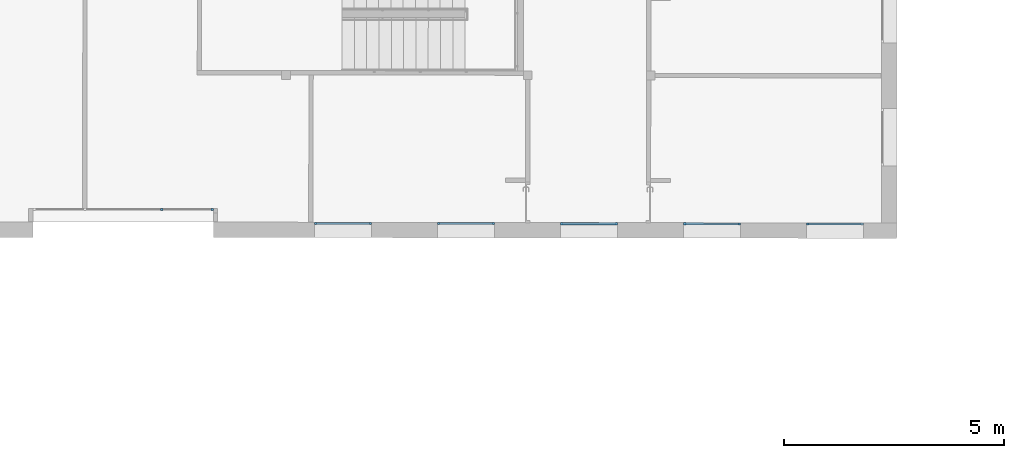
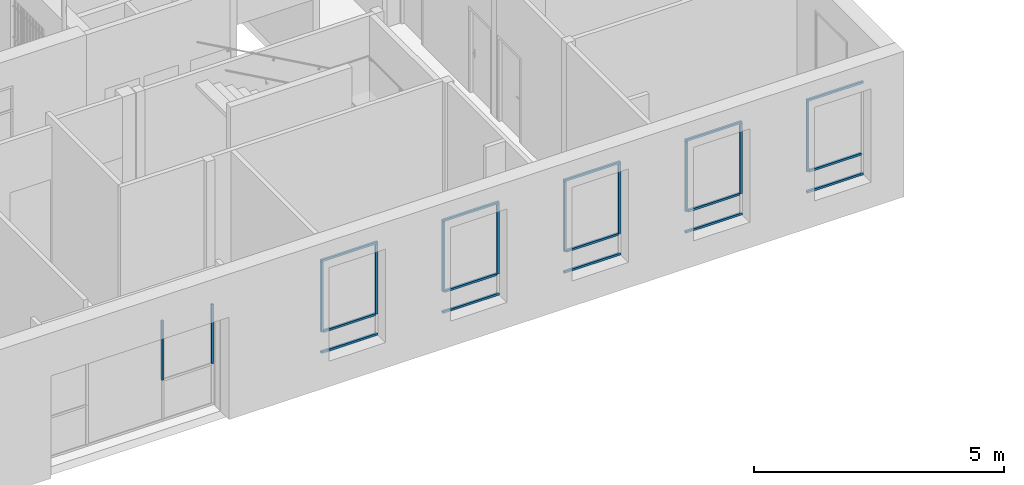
# One storey, part 13 of 101: 26 members, 6 elements without a shape of their own.
"""IFC2X3 building model written with IfcOpenShell, lengths in metres."""

from ifc_helpers import new_model, entity, si_unit, converted_unit, derived_unit, direction, frame, frame_2d, origin, origin_2d_with_axis, place, context, subcontext, project, spatial, rectangle, extrude, source, transform, mapped, material, type_object, type_shapes, element, aggregate, save


model = new_model("IFC2X3")

# Units and contexts
model_context = context("Model", 3, precision=1e-05, world=origin(), true_north=direction((6.123233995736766e-17, 1.0)))
body_context = subcontext(model_context, "Body", "Model", "MODEL_VIEW")
ifc_project = project(units=[si_unit("LENGTHUNIT", "METRE"), si_unit("AREAUNIT", "SQUARE_METRE"), converted_unit("PLANEANGLEUNIT", "DEGREE", entity("IfcPlaneAngleMeasure", 0.017453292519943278), si_unit("PLANEANGLEUNIT", "RADIAN"), dimensions=[0, 0, 0, 0, 0, 0, 0]), derived_unit("THERMALTRANSMITTANCEUNIT", [(si_unit("MASSUNIT", "GRAM", prefix="KILO"), 1), (si_unit("THERMODYNAMICTEMPERATUREUNIT", "KELVIN"), -1), (si_unit("TIMEUNIT", "SECOND"), -3)])], contexts=[model_context])

# Site, building, storey
site_placement = place(None, frame((1253.6752467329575, 2072.143113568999, 91.49999999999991), z_axis=(0.0, 0.0, 1.0), x_axis=(0.7237211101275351, 0.6900925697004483, 0.0)))
site = spatial("IfcSite", under=ifc_project, at=site_placement, Name="Surface", CompositionType="ELEMENT")
building_placement = place(site_placement, origin())
building = spatial("IfcBuilding", under=site, at=building_placement, CompositionType="ELEMENT")
storey_placement = place(building_placement, origin())
storey = spatial("IfcBuildingStorey", under=building, at=storey_placement, Name="0- Rdc", CompositionType="ELEMENT", Elevation=-5.764692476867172e-13)

# Curtain wall, member
curtain_wall_type = type_object("IfcCurtainWallType", Name="Mur-rideau:Menuiserie Ext 1F+1OB VERTIC", PredefinedType="NOTDEFINED")
curtain_wall_1_placement = place(storey_placement, origin())
curtain_wall_1 = element("IfcCurtainWall", 1, at=curtain_wall_1_placement, inside=storey, type_object=curtain_wall_type, Name="Mur-rideau:Menuiserie Ext 1F+1OB VERTIC", ObjectType="Mur-rideau:Menuiserie Ext 1F+1OB VERTIC")
ifc_material = material(Name="OMD_Aluminium Men Ext")
member_type_1 = type_object("IfcMemberType", Name="Meneau rectangulaire:50x50", PredefinedType="MULLION", material=ifc_material)
shared_shape_1 = source(origin(), body_context, "Body", "SweptSolid", [
    extrude(rectangle(XDim=0.05, YDim=0.049999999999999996, at=origin_2d_with_axis()), frame((-0.025, 0.0, -1.2996959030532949), z_axis=(0.0, 0.0, 1.0), x_axis=(-1.0, 0.0, 0.0)), (0.0, 0.0, 1.0), 1.2996959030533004),
])
type_shapes(member_type_1, [shared_shape_1])
member_1_placement = place(curtain_wall_1_placement, frame((178.03940840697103, -28.072796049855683, 2.8999999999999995), z_axis=(-0.7228702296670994, 0.6909838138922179, 0.0), x_axis=(0.0, 0.0, 1.0)))
member_1 = element("IfcMember", 2, at=member_1_placement, type_object=member_type_1, material=ifc_material, Name="Meneau rectangulaire:50x50", ObjectType="Meneau rectangulaire:50x50", context=body_context, shape_type="MappedRepresentation", body=[
    mapped(shared_shape_1, transform((0.0, 0.0, 0.0), scale=1.0)),
])

curtain_wall_2_placement = place(storey_placement, origin())
curtain_wall_2 = element("IfcCurtainWall", 3, at=curtain_wall_2_placement, inside=storey, type_object=curtain_wall_type, Name="Mur-rideau:Menuiserie Ext 1F+1OB VERTIC", ObjectType="Mur-rideau:Menuiserie Ext 1F+1OB VERTIC")
member_2_placement = place(curtain_wall_2_placement, frame((176.0215320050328, -26.14392987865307, 2.8999999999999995), z_axis=(-0.7228702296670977, 0.6909838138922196, 0.0), x_axis=(0.0, 0.0, 1.0)))
member_2 = element("IfcMember", 4, at=member_2_placement, type_object=member_type_1, material=ifc_material, Name="Meneau rectangulaire:50x50", ObjectType="Meneau rectangulaire:50x50", context=body_context, shape_type="MappedRepresentation", body=[
    mapped(shared_shape_1, transform((0.0, 0.0, 0.0), scale=1.0)),
])

curtain_wall_3_placement = place(storey_placement, origin())
curtain_wall_3 = element("IfcCurtainWall", 5, at=curtain_wall_3_placement, inside=storey, type_object=curtain_wall_type, Name="Mur-rideau:Menuiserie Ext 1F+1OB VERTIC", ObjectType="Mur-rideau:Menuiserie Ext 1F+1OB VERTIC")
member_3_placement = place(curtain_wall_3_placement, frame((173.99749536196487, -24.209175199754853, 2.8999999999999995), z_axis=(-0.7228702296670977, 0.6909838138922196, 0.0), x_axis=(0.0, 0.0, 1.0)))
member_3 = element("IfcMember", 6, at=member_3_placement, type_object=member_type_1, material=ifc_material, Name="Meneau rectangulaire:50x50", ObjectType="Meneau rectangulaire:50x50", context=body_context, shape_type="MappedRepresentation", body=[
    mapped(shared_shape_1, transform((0.0, 0.0, 0.0), scale=1.0)),
])

curtain_wall_4_placement = place(storey_placement, origin())
curtain_wall_4 = element("IfcCurtainWall", 7, at=curtain_wall_4_placement, inside=storey, type_object=curtain_wall_type, Name="Mur-rideau:Menuiserie Ext 1F+1OB VERTIC", ObjectType="Mur-rideau:Menuiserie Ext 1F+1OB VERTIC")
member_4_placement = place(curtain_wall_4_placement, frame((171.97345871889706, -22.274420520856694, 2.8999999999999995), z_axis=(-0.7228702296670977, 0.6909838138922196, 0.0), x_axis=(0.0, 0.0, 1.0)))
member_4 = element("IfcMember", 8, at=member_4_placement, type_object=member_type_1, material=ifc_material, Name="Meneau rectangulaire:50x50", ObjectType="Meneau rectangulaire:50x50", context=body_context, shape_type="MappedRepresentation", body=[
    mapped(shared_shape_1, transform((0.0, 0.0, 0.0), scale=1.0)),
])

curtain_wall_5_placement = place(storey_placement, origin())
curtain_wall_5 = element("IfcCurtainWall", 9, at=curtain_wall_5_placement, inside=storey, type_object=curtain_wall_type, Name="Mur-rideau:Menuiserie Ext 1F+1OB VERTIC", ObjectType="Mur-rideau:Menuiserie Ext 1F+1OB VERTIC")
member_5_placement = place(curtain_wall_5_placement, frame((169.94942207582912, -20.339665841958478, 2.8999999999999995), z_axis=(-0.7228702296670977, 0.6909838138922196, 0.0), x_axis=(0.0, 0.0, 1.0)))
member_5 = element("IfcMember", 10, at=member_5_placement, type_object=member_type_1, material=ifc_material, Name="Meneau rectangulaire:50x50", ObjectType="Meneau rectangulaire:50x50", context=body_context, shape_type="MappedRepresentation", body=[
    mapped(shared_shape_1, transform((0.0, 0.0, 0.0), scale=1.0)),
])

# Member
member_type_2 = type_object("IfcMemberType", Name="Meneau rectangulaire:50x50", PredefinedType="MULLION", material=ifc_material)
shared_shape_2 = source(origin(), body_context, "Body", "SweptSolid", [
    extrude(rectangle(XDim=0.05, YDim=0.05, at=origin_2d_with_axis()), frame((-0.025, 0.0, -1.2996959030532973), z_axis=(0.0, 0.0, 1.0), x_axis=(-1.0, 0.0, 0.0)), (0.0, 0.0, 1.0), 1.2996959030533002),
])
type_shapes(member_type_2, [shared_shape_2])
member_6_placement = place(curtain_wall_1_placement, frame((178.97891988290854, -28.970864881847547, 0.62), z_axis=(0.7228702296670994, -0.6909838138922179, 0.0), x_axis=(0.0, 0.0, -1.0)))
member_6 = element("IfcMember", 11, at=member_6_placement, type_object=member_type_2, material=ifc_material, Name="Meneau rectangulaire:50x50", ObjectType="Meneau rectangulaire:50x50", context=body_context, shape_type="MappedRepresentation", body=[
    mapped(shared_shape_2, transform((0.0, 0.0, 0.0), scale=1.0)),
])

member_7_placement = place(curtain_wall_2_placement, frame((176.96104348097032, -27.041998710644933, 0.62), z_axis=(0.7228702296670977, -0.6909838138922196, 0.0), x_axis=(0.0, 0.0, -1.0)))
member_7 = element("IfcMember", 12, at=member_7_placement, type_object=member_type_2, material=ifc_material, Name="Meneau rectangulaire:50x50", ObjectType="Meneau rectangulaire:50x50", context=body_context, shape_type="MappedRepresentation", body=[
    mapped(shared_shape_2, transform((0.0, 0.0, 0.0), scale=1.0)),
])

member_8_placement = place(curtain_wall_3_placement, frame((174.9370068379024, -25.10724403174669, 0.62), z_axis=(0.7228702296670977, -0.6909838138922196, 0.0), x_axis=(0.0, 0.0, -1.0)))
member_8 = element("IfcMember", 13, at=member_8_placement, type_object=member_type_2, material=ifc_material, Name="Meneau rectangulaire:50x50", ObjectType="Meneau rectangulaire:50x50", context=body_context, shape_type="MappedRepresentation", body=[
    mapped(shared_shape_2, transform((0.0, 0.0, 0.0), scale=1.0)),
])

member_9_placement = place(curtain_wall_4_placement, frame((172.91297019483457, -23.17248935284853, 0.62), z_axis=(0.7228702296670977, -0.6909838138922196, 0.0), x_axis=(0.0, 0.0, -1.0)))
member_9 = element("IfcMember", 14, at=member_9_placement, type_object=member_type_2, material=ifc_material, Name="Meneau rectangulaire:50x50", ObjectType="Meneau rectangulaire:50x50", context=body_context, shape_type="MappedRepresentation", body=[
    mapped(shared_shape_2, transform((0.0, 0.0, 0.0), scale=1.0)),
])

member_10_placement = place(curtain_wall_5_placement, frame((170.88893355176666, -21.237734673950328, 0.62), z_axis=(0.7228702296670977, -0.6909838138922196, 0.0), x_axis=(0.0, 0.0, -1.0)))
member_10 = element("IfcMember", 15, at=member_10_placement, type_object=member_type_2, material=ifc_material, Name="Meneau rectangulaire:50x50", ObjectType="Meneau rectangulaire:50x50", context=body_context, shape_type="MappedRepresentation", body=[
    mapped(shared_shape_2, transform((0.0, 0.0, 0.0), scale=1.0)),
])

member_type_3 = type_object("IfcMemberType", Name="Meneau rectangulaire:50x50", PredefinedType="MULLION", material=ifc_material)
shared_shape_3 = source(origin(), body_context, "Body", "SweptSolid", [
    extrude(rectangle(XDim=0.05, YDim=0.049999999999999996, at=origin_2d_with_axis()), frame((-0.025, 0.0, -1.7099999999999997), z_axis=(0.0, 0.0, 1.0), x_axis=(-1.0, 0.0, 0.0)), (0.0, 0.0, 1.0), 1.7099999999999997),
])
type_shapes(member_type_3, [shared_shape_3])
member_11_placement = place(curtain_wall_2_placement, frame((176.96104348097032, -27.041998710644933, 2.8499999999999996), z_axis=(0.0, 0.0, 1.0), x_axis=(0.7228702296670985, -0.6909838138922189, 0.0)))
member_11 = element("IfcMember", 16, at=member_11_placement, type_object=member_type_3, material=ifc_material, Name="Meneau rectangulaire:50x50", ObjectType="Meneau rectangulaire:50x50", context=body_context, shape_type="MappedRepresentation", body=[
    mapped(shared_shape_3, transform((0.0, 0.0, 0.0), scale=1.0)),
])

member_12_placement = place(curtain_wall_3_placement, frame((174.9370068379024, -25.107244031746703, 2.8499999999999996), z_axis=(0.0, 0.0, 1.0), x_axis=(0.7228702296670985, -0.6909838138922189, 0.0)))
member_12 = element("IfcMember", 17, at=member_12_placement, type_object=member_type_3, material=ifc_material, Name="Meneau rectangulaire:50x50", ObjectType="Meneau rectangulaire:50x50", context=body_context, shape_type="MappedRepresentation", body=[
    mapped(shared_shape_3, transform((0.0, 0.0, 0.0), scale=1.0)),
])

member_13_placement = place(curtain_wall_4_placement, frame((172.91297019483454, -23.172489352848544, 2.8499999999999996), z_axis=(0.0, 0.0, 1.0), x_axis=(0.7228702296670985, -0.6909838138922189, 0.0)))
member_13 = element("IfcMember", 18, at=member_13_placement, type_object=member_type_3, material=ifc_material, Name="Meneau rectangulaire:50x50", ObjectType="Meneau rectangulaire:50x50", context=body_context, shape_type="MappedRepresentation", body=[
    mapped(shared_shape_3, transform((0.0, 0.0, 0.0), scale=1.0)),
])

member_14_placement = place(curtain_wall_5_placement, frame((170.88893355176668, -21.237734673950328, 2.8499999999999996), z_axis=(0.0, 0.0, 1.0), x_axis=(0.7228702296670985, -0.6909838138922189, 0.0)))
member_14 = element("IfcMember", 19, at=member_14_placement, type_object=member_type_3, material=ifc_material, Name="Meneau rectangulaire:50x50", ObjectType="Meneau rectangulaire:50x50", context=body_context, shape_type="MappedRepresentation", body=[
    mapped(shared_shape_3, transform((0.0, 0.0, 0.0), scale=1.0)),
])

member_type_4 = type_object("IfcMemberType", Name="Meneau rectangulaire:50x50", PredefinedType="MULLION", material=ifc_material)
shared_shape_4 = source(origin(), body_context, "Body", "SweptSolid", [
    extrude(rectangle(XDim=0.05, YDim=0.049999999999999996, at=origin_2d_with_axis()), frame((-0.025, 0.0, -1.7099999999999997), z_axis=(0.0, 0.0, 1.0), x_axis=(-1.0, 0.0, 0.0)), (0.0, 0.0, 1.0), 1.7099999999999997),
])
type_shapes(member_type_4, [shared_shape_4])
member_15_placement = place(curtain_wall_1_placement, frame((178.03940840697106, -28.07279604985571, 1.14), z_axis=(0.0, 0.0, -1.0), x_axis=(-0.7228702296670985, 0.6909838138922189, 0.0)))
member_15 = element("IfcMember", 20, at=member_15_placement, type_object=member_type_4, material=ifc_material, Name="Meneau rectangulaire:50x50", ObjectType="Meneau rectangulaire:50x50", context=body_context, shape_type="MappedRepresentation", body=[
    mapped(shared_shape_4, transform((0.0, 0.0, 0.0), scale=1.0)),
])

member_16_placement = place(curtain_wall_2_placement, frame((176.02153200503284, -26.143929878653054, 1.14), z_axis=(0.0, 0.0, -1.0), x_axis=(-0.7228702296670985, 0.6909838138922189, 0.0)))
member_16 = element("IfcMember", 21, at=member_16_placement, type_object=member_type_4, material=ifc_material, Name="Meneau rectangulaire:50x50", ObjectType="Meneau rectangulaire:50x50", context=body_context, shape_type="MappedRepresentation", body=[
    mapped(shared_shape_4, transform((0.0, 0.0, 0.0), scale=1.0)),
])

member_17_placement = place(curtain_wall_3_placement, frame((173.99749536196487, -24.20917519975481, 1.14), z_axis=(0.0, 0.0, -1.0), x_axis=(-0.7228702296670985, 0.6909838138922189, 0.0)))
member_17 = element("IfcMember", 22, at=member_17_placement, type_object=member_type_4, material=ifc_material, Name="Meneau rectangulaire:50x50", ObjectType="Meneau rectangulaire:50x50", context=body_context, shape_type="MappedRepresentation", body=[
    mapped(shared_shape_4, transform((0.0, 0.0, 0.0), scale=1.0)),
])

member_18_placement = place(curtain_wall_4_placement, frame((171.97345871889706, -22.27442052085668, 1.14), z_axis=(0.0, 0.0, -1.0), x_axis=(-0.7228702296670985, 0.6909838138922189, 0.0)))
member_18 = element("IfcMember", 23, at=member_18_placement, type_object=member_type_4, material=ifc_material, Name="Meneau rectangulaire:50x50", ObjectType="Meneau rectangulaire:50x50", context=body_context, shape_type="MappedRepresentation", body=[
    mapped(shared_shape_4, transform((0.0, 0.0, 0.0), scale=1.0)),
])

member_19_placement = place(curtain_wall_5_placement, frame((169.94942207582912, -20.339665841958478, 1.14), z_axis=(0.0, 0.0, -1.0), x_axis=(-0.7228702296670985, 0.6909838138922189, 0.0)))
member_19 = element("IfcMember", 24, at=member_19_placement, type_object=member_type_4, material=ifc_material, Name="Meneau rectangulaire:50x50", ObjectType="Meneau rectangulaire:50x50", context=body_context, shape_type="MappedRepresentation", body=[
    mapped(shared_shape_4, transform((0.0, 0.0, 0.0), scale=1.0)),
])

member_type_5 = type_object("IfcMemberType", Name="Meneau rectangulaire:50x50", PredefinedType="MULLION", material=ifc_material)
shared_shape_5 = source(origin(), body_context, "Body", "SweptSolid", [
    extrude(rectangle(XDim=0.05, YDim=0.05, at=frame_2d((0.0, -1.734723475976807e-18), x_axis=(1.0, 0.0))), frame((0.0, 0.0, -1.1996959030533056), z_axis=(0.0, 0.0, 1.0), x_axis=(-1.0, 0.0, 0.0)), (0.0, 0.0, 1.0), 1.1996959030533),
])
type_shapes(member_type_5, [shared_shape_5])
member_20_placement = place(curtain_wall_1_placement, frame((178.07555191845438, -28.107345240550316, 1.14), z_axis=(-0.7228702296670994, 0.6909838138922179, 0.0), x_axis=(0.0, 0.0, 1.0)))
member_20 = element("IfcMember", 25, at=member_20_placement, type_object=member_type_5, material=ifc_material, Name="Meneau rectangulaire:50x50", ObjectType="Meneau rectangulaire:50x50", context=body_context, shape_type="MappedRepresentation", body=[
    mapped(shared_shape_5, transform((0.0, 0.0, 0.0), scale=1.0)),
])

aggregate(curtain_wall_1, [member_1, member_6, member_15, member_20])

member_21_placement = place(curtain_wall_2_placement, frame((176.05767551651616, -26.178479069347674, 1.14), z_axis=(-0.7228702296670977, 0.6909838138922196, 0.0), x_axis=(0.0, 0.0, 1.0)))
member_21 = element("IfcMember", 26, at=member_21_placement, type_object=member_type_5, material=ifc_material, Name="Meneau rectangulaire:50x50", ObjectType="Meneau rectangulaire:50x50", context=body_context, shape_type="MappedRepresentation", body=[
    mapped(shared_shape_5, transform((0.0, 0.0, 0.0), scale=1.0)),
])

aggregate(curtain_wall_2, [member_2, member_7, member_11, member_16, member_21])

member_22_placement = place(curtain_wall_3_placement, frame((174.03363887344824, -24.24372439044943, 1.14), z_axis=(-0.7228702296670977, 0.6909838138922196, 0.0), x_axis=(0.0, 0.0, 1.0)))
member_22 = element("IfcMember", 27, at=member_22_placement, type_object=member_type_5, material=ifc_material, Name="Meneau rectangulaire:50x50", ObjectType="Meneau rectangulaire:50x50", context=body_context, shape_type="MappedRepresentation", body=[
    mapped(shared_shape_5, transform((0.0, 0.0, 0.0), scale=1.0)),
])

aggregate(curtain_wall_3, [member_3, member_8, member_12, member_17, member_22])

member_23_placement = place(curtain_wall_4_placement, frame((172.00960223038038, -22.30896971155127, 1.14), z_axis=(-0.7228702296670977, 0.6909838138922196, 0.0), x_axis=(0.0, 0.0, 1.0)))
member_23 = element("IfcMember", 28, at=member_23_placement, type_object=member_type_5, material=ifc_material, Name="Meneau rectangulaire:50x50", ObjectType="Meneau rectangulaire:50x50", context=body_context, shape_type="MappedRepresentation", body=[
    mapped(shared_shape_5, transform((0.0, 0.0, 0.0), scale=1.0)),
])

aggregate(curtain_wall_4, [member_4, member_9, member_13, member_18, member_23])

member_24_placement = place(curtain_wall_5_placement, frame((169.9855655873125, -20.374215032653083, 1.14), z_axis=(-0.7228702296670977, 0.6909838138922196, 0.0), x_axis=(0.0, 0.0, 1.0)))
member_24 = element("IfcMember", 29, at=member_24_placement, type_object=member_type_5, material=ifc_material, Name="Meneau rectangulaire:50x50", ObjectType="Meneau rectangulaire:50x50", context=body_context, shape_type="MappedRepresentation", body=[
    mapped(shared_shape_5, transform((0.0, 0.0, 0.0), scale=1.0)),
])

aggregate(curtain_wall_5, [member_5, member_10, member_14, member_19, member_24])

# Curtain wall, members
curtain_wall_6_placement = place(storey_placement, origin())
curtain_wall_6 = element("IfcCurtainWall", 30, at=curtain_wall_6_placement, inside=storey, type_object=curtain_wall_type, Name="Mur-rideau:Menuiserie Ext 1F+1OB VERTIC", ObjectType="Mur-rideau:Menuiserie Ext 1F+1OB VERTIC")
member_type_6 = type_object("IfcMemberType", Name="Meneau rectangulaire:50x50", PredefinedType="MULLION", material=ifc_material)
shared_shape_6 = source(origin(), body_context, "Body", "SweptSolid", [
    extrude(rectangle(XDim=0.05, YDim=0.05, at=origin_2d_with_axis()), frame((-0.025, 0.0, -1.4499999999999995), z_axis=(0.0, 0.0, 1.0), x_axis=(-1.0, 0.0, 0.0)), (0.0, 0.0, 1.0), 1.4499999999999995),
])
type_shapes(member_type_6, [shared_shape_6])
member_25_placement = place(curtain_wall_6_placement, frame((168.5008057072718, -18.526103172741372, 2.4499999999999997), z_axis=(0.0, 0.0, 1.0), x_axis=(0.7228702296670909, -0.6909838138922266, 0.0)))
member_25 = element("IfcMember", 31, at=member_25_placement, type_object=member_type_6, material=ifc_material, Name="Meneau rectangulaire:50x50", ObjectType="Meneau rectangulaire:50x50", context=body_context, shape_type="MappedRepresentation", body=[
    mapped(shared_shape_6, transform((0.0, 0.0, 0.0), scale=1.0)),
])
member_type_7 = type_object("IfcMemberType", Name="Meneau rectangulaire:50x50", PredefinedType="MULLION", material=ifc_material)
shared_shape_7 = source(origin(), body_context, "Body", "SweptSolid", [
    extrude(rectangle(XDim=0.05, YDim=0.05, at=origin_2d_with_axis()), frame((0.0, 0.0, -1.449999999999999), z_axis=(0.0, 0.0, 1.0), x_axis=(-1.0, 0.0, 0.0)), (0.0, 0.0, 1.0), 1.449999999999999),
])
type_shapes(member_type_7, [shared_shape_7])
member_26_placement = place(curtain_wall_6_placement, frame((167.65143318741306, -17.71419719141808, 1.0), z_axis=(0.0, 0.0, -1.0), x_axis=(-0.7228702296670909, 0.6909838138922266, 0.0)))
member_26 = element("IfcMember", 32, at=member_26_placement, type_object=member_type_7, material=ifc_material, Name="Meneau rectangulaire:50x50", ObjectType="Meneau rectangulaire:50x50", context=body_context, shape_type="MappedRepresentation", body=[
    mapped(shared_shape_7, transform((0.0, 0.0, 0.0), scale=1.0)),
])
aggregate(curtain_wall_6, [member_25, member_26])

save(model, "model.ifc")
